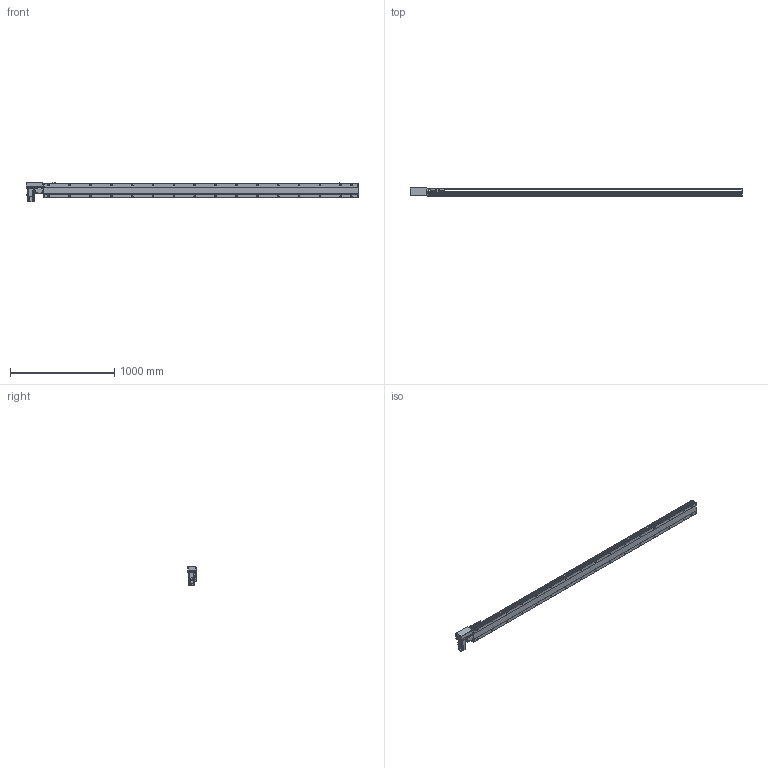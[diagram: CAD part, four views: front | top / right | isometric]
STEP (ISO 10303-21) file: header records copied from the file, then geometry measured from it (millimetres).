
FILE_DESCRIPTION(/* description */ ('STEP AP214'),/* implementation_level */ '2;1');
FILE_NAME(/* name */ 'PBS140-P40-S2750-R-T40-C1-N(0)',/* time_stamp */ '2022-06-06T03:31:49+02:00',/* author */ ('License CC BY-ND 4.0'),/* organization */ ('CADENAS'),/* preprocessor_version */ 'ST-DEVELOPER v18.102',/* originating_system */ 'PARTsolutions',/* authorisation */ ' ');
FILE_SCHEMA (('AUTOMOTIVE_DESIGN {1 0 10303 214 3 1 1}'));
Length unit declared in the file: millimetre
Products named in the file (7): PBS140-P40-S2750-R-T40-C1-N(0); PBS140_sensor; PBS140_plant; PBS140_sliser; T40-p1; PBS140T-R_motors; PBS140-S2750()_body
Assembly tree (8 placements, depth 2):
  PBS140-P40-S2750-R-T40-C1-N(0)
    PBS140_sensor  x3
    PBS140_plant
    PBS140_sliser
    T40-p1
    PBS140T-R_motors
    PBS140-S2750()_body
Bounding box: 3183 x 80.5 x 189.7 mm (x, y, z)
Volume: 13847802.2 mm3; surface area: 2353684.4 mm2
Topology: 8 solids, 8 shells, 1203 faces, 3156 edges, 2061 vertices
Faces by surface type: plane 740, cylinder 395, cone 58, sphere 8, torus 2
Full cylindrical faces by diameter (mm): 3.242 x4, 4 x2, 4.134 x4, 4.4 x8, 4.5 x2, 4.8 x4, 4.917 x40, 5.5 x7, 6 x2, 7 x34, 7.5 x8, 8 x12, 8.5 x4, 10.5 x32, 14 x1, 30 x2, 50 x2
Entity records: 34309 total; most frequent: CARTESIAN_POINT 6561, DIRECTION 5757, ORIENTED_EDGE 5392, EDGE_CURVE 2696, AXIS2_PLACEMENT_3D 2047, VERTEX_POINT 1893, LINE 1663, VECTOR 1663
